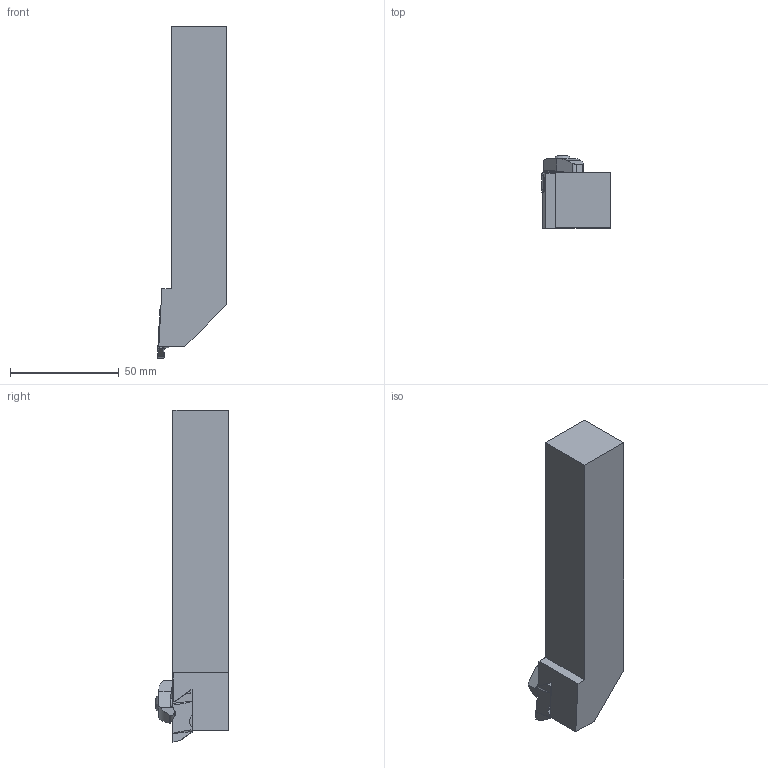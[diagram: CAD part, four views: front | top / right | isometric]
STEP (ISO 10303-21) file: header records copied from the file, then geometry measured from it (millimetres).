
FILE_DESCRIPTION(/* description */ (''),/* implementation_level */ '2;1');
FILE_NAME(/* name */ 'NSR163D_GTM.stp',/* time_stamp */ '2017-09-13T15:09:59+06:00',/* author */ (''),/* organization */ (''),/* preprocessor_version */ 'ST-DEVELOPER v15',/* originating_system */ 'SIEMENS PLM Software NX 9.0',/* authorisation */ '');
FILE_SCHEMA (('AUTOMOTIVE_DESIGN { 1 0 10303 214 3 1 1 1 }'));
Length unit declared in the file: millimetre
Products named in the file (1): NSR163D_GTM
Bounding box: 31.75 x 33.34 x 152.4 mm (x, y, z)
Volume: 95050.5 mm3; surface area: 17939.5 mm2
Topology: 4 solids, 4 shells, 128 faces, 360 edges, 247 vertices
Faces by surface type: plane 68, cylinder 54, bspline 5, cone 1
Full cylindrical faces by diameter (mm): 4.826 x1, 8.992 x1, 10.008 x1
Entity records: 4343 total; most frequent: CARTESIAN_POINT 896, DIRECTION 716, ORIENTED_EDGE 696, EDGE_CURVE 348, AXIS2_PLACEMENT_3D 247, VERTEX_POINT 235, LINE 222, VECTOR 222
